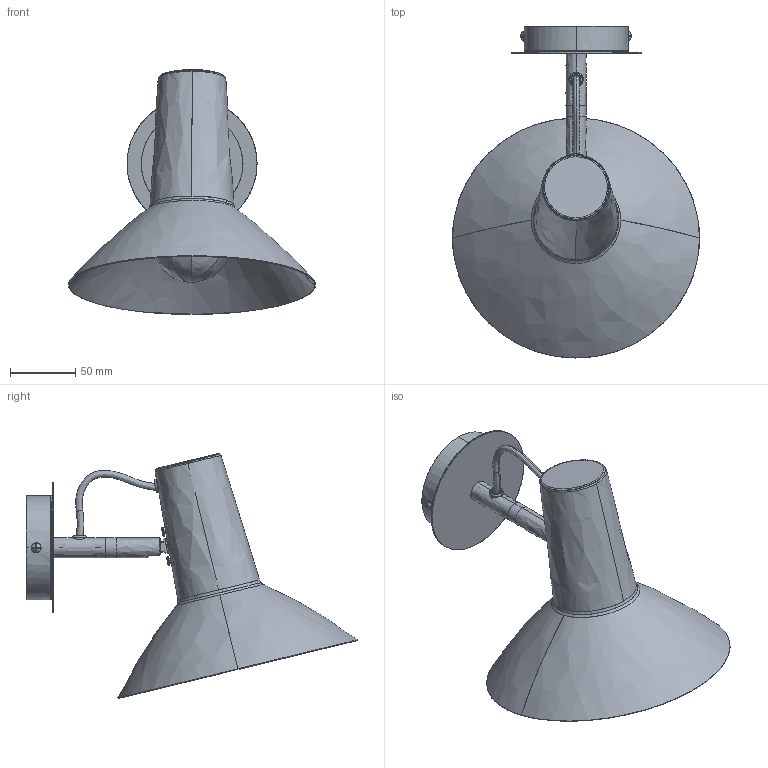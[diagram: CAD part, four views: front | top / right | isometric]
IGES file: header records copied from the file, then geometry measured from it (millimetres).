
Start section: SolidWorks IGES file using analytic representation for surfaces
Global section: file name: C:\Users\adrian\Desktop\Nueva Coleccion Septiembre 2026\HUDO\HUDO_A1366\HUDO_A1366.IGS; native system: SolidWorks 2023; preprocessor: SolidWorks 2023; author: adrian; date: 260616.164515; units: millimetre
Bounding box: 190 x 255.17 x 188.3 mm (x, y, z)
Surface area: 180123.7 mm2 (no closed solid volume)
Topology: 0 solids, 0 shells, 423 faces, 4685 edges, 4681 vertices
Faces by surface type: bspline 423
